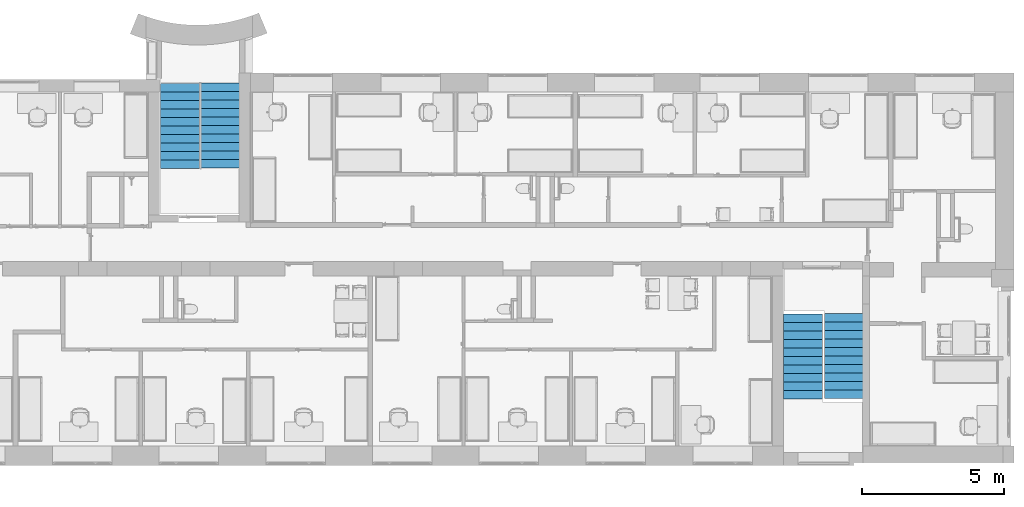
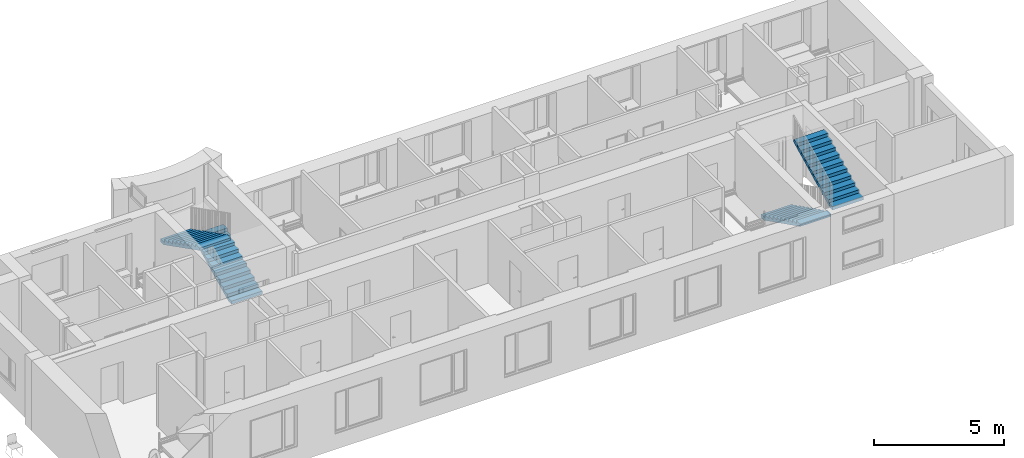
# One storey, part 17 of 48: 4 stair flights, 4 elements without a shape of their own.
"""IFC2X3 building model written with IfcOpenShell, lengths in millimetres."""

from ifc_helpers import new_model, entity, si_unit, converted_unit, derived_unit, direction, frame, origin, place, context, subcontext, project, spatial, faceted_brep, material, type_object, element, aggregate, save


model = new_model("IFC2X3")

# Units and contexts
model_context = context("Model", 3, precision=0.01, world=origin(), true_north=direction((6.12303176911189e-17, 1.0)))
body_context = subcontext(model_context, "Body", "Model", "MODEL_VIEW")
ifc_project = project(units=[si_unit("LENGTHUNIT", "METRE", prefix="MILLI"), si_unit("AREAUNIT", "SQUARE_METRE"), si_unit("VOLUMEUNIT", "CUBIC_METRE"), converted_unit("PLANEANGLEUNIT", "DEGREE", entity("IfcRatioMeasure", 0.0174532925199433), si_unit("PLANEANGLEUNIT", "RADIAN"), dimensions=[0, 0, 0, 0, 0, 0, 0]), si_unit("MASSUNIT", "GRAM", prefix="KILO"), derived_unit("MASSDENSITYUNIT", [(si_unit("MASSUNIT", "GRAM", prefix="KILO"), 1), (si_unit("LENGTHUNIT", "METRE"), -3)]), si_unit("TIMEUNIT", "SECOND"), si_unit("FREQUENCYUNIT", "HERTZ"), si_unit("THERMODYNAMICTEMPERATUREUNIT", "DEGREE_CELSIUS"), derived_unit("THERMALTRANSMITTANCEUNIT", [(si_unit("MASSUNIT", "GRAM", prefix="KILO"), 1), (si_unit("THERMODYNAMICTEMPERATUREUNIT", "KELVIN"), -1), (si_unit("TIMEUNIT", "SECOND"), -3)]), derived_unit("VOLUMETRICFLOWRATEUNIT", [(si_unit("LENGTHUNIT", "METRE"), 3), (si_unit("TIMEUNIT", "SECOND"), -1)]), si_unit("ELECTRICCURRENTUNIT", "AMPERE"), si_unit("ELECTRICVOLTAGEUNIT", "VOLT"), si_unit("POWERUNIT", "WATT"), si_unit("FORCEUNIT", "NEWTON", prefix="KILO"), si_unit("ILLUMINANCEUNIT", "LUX"), si_unit("LUMINOUSFLUXUNIT", "LUMEN"), si_unit("LUMINOUSINTENSITYUNIT", "CANDELA"), derived_unit("USERDEFINED", [(si_unit("MASSUNIT", "GRAM", prefix="KILO"), -1), (si_unit("LENGTHUNIT", "METRE"), -2), (si_unit("TIMEUNIT", "SECOND"), 3), (si_unit("LUMINOUSFLUXUNIT", "LUMEN"), 1)]), derived_unit("LINEARVELOCITYUNIT", [(si_unit("LENGTHUNIT", "METRE"), 1), (si_unit("TIMEUNIT", "SECOND"), -1)]), si_unit("PRESSUREUNIT", "PASCAL"), derived_unit("USERDEFINED", [(si_unit("LENGTHUNIT", "METRE"), -2), (si_unit("MASSUNIT", "GRAM", prefix="KILO"), 1), (si_unit("TIMEUNIT", "SECOND"), -2)]), derived_unit("LINEARFORCEUNIT", [(si_unit("MASSUNIT", "GRAM", prefix="KILO"), 1), (si_unit("LENGTHUNIT", "METRE"), 1), (si_unit("TIMEUNIT", "SECOND"), -2), (si_unit("LENGTHUNIT", "METRE"), -1)]), derived_unit("PLANARFORCEUNIT", [(si_unit("MASSUNIT", "GRAM", prefix="KILO"), 1), (si_unit("LENGTHUNIT", "METRE"), 1), (si_unit("TIMEUNIT", "SECOND"), -2), (si_unit("LENGTHUNIT", "METRE"), -2)])], contexts=[model_context])

# Site, building, storey
site_placement = place(None, origin())
site = spatial("IfcSite", under=ifc_project, at=site_placement, Name="Default", CompositionType="ELEMENT")
building_placement = place(site_placement, origin())
building = spatial("IfcBuilding", under=site, at=building_placement, Name="SMA ARH", CompositionType="ELEMENT")
storey_placement = place(building_placement, frame((0.0, 0.0, 6600.0)))
storey = spatial("IfcBuildingStorey", under=building, at=storey_placement, Name="3 Korrus", CompositionType="ELEMENT", Elevation=6599.99999999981)

# Stair, stair flight
stair_1_placement = place(storey_placement, origin())
stair_1 = element("IfcStair", 1, at=stair_1_placement, inside=storey, Name="Cast-In-Place Stair:Stair", ObjectType="Cast-In-Place Stair:Cast-In-Place Stair", ShapeType="STRAIGHT_RUN_STAIR")
ifc_material = material(Name="EST. Betoon. Armeeritud. Monteeritav(1)")
stair_flight_type_1 = type_object("IfcStairFlightType", Name="Monolithic Run:Monolithic Run", PredefinedType="STRAIGHT")
stair_flight_1_placement = place(stair_1_placement, frame((10255.0, 9812.01033621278, 0.0)))
stair_flight_1 = element("IfcStairFlight", 2, at=stair_flight_1_placement, type_object=stair_flight_type_1, material=ifc_material, Name="Cast-In-Place Stair:Stair:912932 Run 1", ObjectType="Monolithic Run:Monolithic Run", NumberOfRiser=11, NumberOfTreads=10, RiserHeight=0.483178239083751, TreadLength=0.984251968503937, context=body_context, shape_type="Brep", body=[
    faceted_brep([(0.0, 300.0, 87.2727272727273), (0.0, 0.0, 87.2727272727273), (1375.0, 0.0, 87.2727272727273), (1375.0, 300.0, 87.2727272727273), (0.0, 300.0, -24.127081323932), (0.0, 226.925536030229, -60.0), (0.0, 0.0, -60.0), (1375.0, 0.0, -60.0), (1375.0, 226.925536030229, -60.0), (1375.0, 300.0, -24.1270813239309), (0.0, 600.0, 234.545454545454), (0.0, 300.0, 234.545454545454), (1375.0, 300.0, 234.545454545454), (1375.0, 600.0, 234.545454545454), (0.0, 600.0, 123.145645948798), (1375.0, 600.0, 123.145645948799), (0.0, 900.0, 381.818181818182), (0.0, 600.0, 381.818181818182), (1375.0, 600.0, 381.818181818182), (1375.0, 900.0, 381.818181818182), (0.0, 900.0, 270.418373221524), (1375.0, 900.0, 270.418373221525), (0.0, 1200.0, 529.090909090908), (0.0, 900.0, 529.090909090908), (1375.0, 900.0, 529.090909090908), (1375.0, 1200.0, 529.090909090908), (0.0, 1200.0, 417.691100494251), (1375.0, 1200.0, 417.691100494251), (0.0, 1500.0, 676.363636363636), (0.0, 1200.0, 676.363636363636), (1375.0, 1200.0, 676.363636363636), (1375.0, 1500.0, 676.363636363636), (0.0, 1500.0, 564.963827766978), (1375.0, 1500.0, 564.963827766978), (0.0, 1800.0, 823.636363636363), (0.0, 1500.0, 823.636363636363), (1375.0, 1500.0, 823.636363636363), (1375.0, 1800.0, 823.636363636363), (0.0, 1800.0, 712.236555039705), (1375.0, 1800.0, 712.236555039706), (0.0, 2100.0, 970.909090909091), (0.0, 1800.0, 970.909090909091), (1375.0, 1800.0, 970.909090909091), (1375.0, 2100.0, 970.909090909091), (0.0, 2100.0, 859.509282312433), (1375.0, 2100.0, 859.509282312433), (0.0, 2400.0, 1118.18181818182), (0.0, 2100.0, 1118.18181818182), (1375.0, 2100.0, 1118.18181818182), (1375.0, 2400.0, 1118.18181818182), (0.0, 2400.0, 1006.78200958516), (1375.0, 2400.0, 1006.78200958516), (0.0, 2700.0, 1265.45454545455), (0.0, 2400.0, 1265.45454545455), (1375.0, 2400.0, 1265.45454545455), (1375.0, 2700.0, 1265.45454545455), (0.0, 2700.0, 1154.05473685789), (1375.0, 2700.0, 1154.05473685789), (0.0, 3000.0, 1301.32746413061), (1375.0, 3000.0, 1301.32746413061), (0.0, 3000.0, 1412.72727272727), (0.0, 2700.0, 1412.72727272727), (1375.0, 2700.0, 1412.72727272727), (1375.0, 3000.0, 1412.72727272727), (0.0, 3000.0, 1360.0)], [[[0, 1, 2, 3]], [[1, 0, 4, 5, 6]], [[2, 1, 6, 7]], [[3, 2, 7, 8, 9]], [[10, 11, 12, 13]], [[11, 10, 14, 4, 0]], [[0, 3, 12, 11]], [[13, 12, 3, 9, 15]], [[16, 17, 18, 19]], [[17, 16, 20, 14, 10]], [[10, 13, 18, 17]], [[19, 18, 13, 15, 21]], [[22, 23, 24, 25]], [[23, 22, 26, 20, 16]], [[16, 19, 24, 23]], [[25, 24, 19, 21, 27]], [[28, 29, 30, 31]], [[29, 28, 32, 26, 22]], [[22, 25, 30, 29]], [[31, 30, 25, 27, 33]], [[34, 35, 36, 37]], [[35, 34, 38, 32, 28]], [[28, 31, 36, 35]], [[37, 36, 31, 33, 39]], [[40, 41, 42, 43]], [[41, 40, 44, 38, 34]], [[34, 37, 42, 41]], [[43, 42, 37, 39, 45]], [[46, 47, 48, 49]], [[47, 46, 50, 44, 40]], [[40, 43, 48, 47]], [[49, 48, 43, 45, 51]], [[52, 53, 54, 55]], [[53, 52, 56, 50, 46]], [[46, 49, 54, 53]], [[55, 54, 49, 51, 57]], [[7, 6, 5, 8]], [[8, 5, 4, 14, 20, 26, 32, 38, 44, 50, 56, 58, 59, 57, 51, 45, 39, 33, 27, 21, 15, 9]], [[60, 61, 62, 63]], [[61, 60, 64, 58, 56, 52]], [[52, 55, 62, 61]], [[63, 62, 55, 57, 59]], [[60, 63, 59, 58, 64]]]),
])
aggregate(stair_1, [stair_flight_1])

stair_2_placement = place(storey_placement, origin())
stair_2 = element("IfcStair", 3, at=stair_2_placement, inside=storey, Name="Cast-In-Place Stair:Stair", ObjectType="Cast-In-Place Stair:Cast-In-Place Stair", ShapeType="STRAIGHT_RUN_STAIR")
stair_flight_type_2 = type_object("IfcStairFlightType", Name="Monolithic Run:Monolithic Run", PredefinedType="STRAIGHT")
stair_flight_2_placement = place(stair_2_placement, frame((30835.0, 1655.0, 0.0)))
stair_flight_2 = element("IfcStairFlight", 4, at=stair_flight_2_placement, type_object=stair_flight_type_2, material=ifc_material, Name="Cast-In-Place Stair:Stair:1045978 Run 1", ObjectType="Monolithic Run:Monolithic Run", NumberOfRiser=11, NumberOfTreads=10, RiserHeight=0.492125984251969, TreadLength=0.984251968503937, context=body_context, shape_type="Brep", body=[
    faceted_brep([(1375.0, 2700.0, 100.0), (1375.0, 3000.0, 100.0), (0.0, 3000.0, 100.0), (0.0, 2700.0, 100.0), (1375.0, 2700.0, -11.8033988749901), (1375.0, 2776.39320225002, -50.0), (1375.0, 3000.0, -50.0), (0.0, 3000.0, -50.0), (0.0, 2776.39320225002, -50.0), (0.0, 2700.0, -11.8033988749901), (1375.0, 2400.0, 250.0), (1375.0, 2700.0, 250.0), (0.0, 2700.0, 250.0), (0.0, 2400.0, 250.0), (1375.0, 2400.0, 138.196601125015), (0.0, 2400.0, 138.196601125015), (1375.0, 2100.0, 400.0), (1375.0, 2400.0, 400.0), (0.0, 2400.0, 400.0), (0.0, 2100.0, 400.0), (1375.0, 2100.0, 288.196601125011), (0.0, 2100.0, 288.196601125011), (1375.0, 1800.0, 550.0), (1375.0, 2100.0, 550.0), (0.0, 2100.0, 550.0), (0.0, 1800.0, 550.0), (1375.0, 1800.0, 438.196601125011), (0.0, 1800.0, 438.196601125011), (1375.0, 1500.0, 700.0), (1375.0, 1800.0, 700.0), (0.0, 1800.0, 700.0), (0.0, 1500.0, 700.0), (1375.0, 1500.0, 588.196601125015), (0.0, 1500.0, 588.196601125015), (1375.0, 1200.0, 850.0), (1375.0, 1500.0, 850.0), (0.0, 1500.0, 850.0), (0.0, 1200.0, 850.0), (1375.0, 1200.0, 738.19660112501), (0.0, 1200.0, 738.19660112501), (1375.0, 900.0, 1000.0), (1375.0, 1200.0, 1000.0), (0.0, 1200.0, 1000.0), (0.0, 900.0, 1000.0), (1375.0, 900.0, 888.196601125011), (0.0, 900.0, 888.196601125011), (1375.0, 600.0, 1150.0), (1375.0, 900.0, 1150.0), (0.0, 900.0, 1150.0), (0.0, 600.0, 1150.0), (1375.0, 600.0, 1038.19660112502), (0.0, 600.0, 1038.19660112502), (1375.0, 300.0, 1300.0), (1375.0, 600.0, 1300.0), (0.0, 600.0, 1300.0), (0.0, 300.0, 1300.0), (1375.0, 300.0, 1188.19660112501), (0.0, 300.0, 1188.19660112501), (1375.0, 0.0, 1338.19660112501), (0.0, 0.0, 1338.19660112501), (1375.0, 0.0, 1450.0), (1375.0, 300.0, 1450.0), (0.0, 300.0, 1450.0), (0.0, 0.0, 1450.0)], [[[0, 1, 2, 3]], [[1, 0, 4, 5, 6]], [[2, 1, 6, 7]], [[3, 2, 7, 8, 9]], [[10, 11, 12, 13]], [[11, 10, 14, 4, 0]], [[0, 3, 12, 11]], [[13, 12, 3, 9, 15]], [[16, 17, 18, 19]], [[17, 16, 20, 14, 10]], [[10, 13, 18, 17]], [[19, 18, 13, 15, 21]], [[22, 23, 24, 25]], [[23, 22, 26, 20, 16]], [[16, 19, 24, 23]], [[25, 24, 19, 21, 27]], [[28, 29, 30, 31]], [[29, 28, 32, 26, 22]], [[22, 25, 30, 29]], [[31, 30, 25, 27, 33]], [[34, 35, 36, 37]], [[35, 34, 38, 32, 28]], [[28, 31, 36, 35]], [[37, 36, 31, 33, 39]], [[40, 41, 42, 43]], [[41, 40, 44, 38, 34]], [[34, 37, 42, 41]], [[43, 42, 37, 39, 45]], [[46, 47, 48, 49]], [[47, 46, 50, 44, 40]], [[40, 43, 48, 47]], [[49, 48, 43, 45, 51]], [[52, 53, 54, 55]], [[53, 52, 56, 50, 46]], [[46, 49, 54, 53]], [[55, 54, 49, 51, 57]], [[7, 6, 5, 8]], [[8, 5, 4, 14, 20, 26, 32, 38, 44, 50, 56, 58, 59, 57, 51, 45, 39, 33, 27, 21, 15, 9]], [[60, 61, 62, 63]], [[61, 60, 58, 56, 52]], [[52, 55, 62, 61]], [[63, 62, 55, 57, 59]], [[60, 63, 59, 58]]]),
])
aggregate(stair_2, [stair_flight_2])

stair_3_placement = place(storey_placement, origin())
stair_3 = element("IfcStair", 5, at=stair_3_placement, inside=storey, Name="Cast-In-Place Stair:Stair", ObjectType="Cast-In-Place Stair:Cast-In-Place Stair", ShapeType="STRAIGHT_RUN_STAIR")
stair_flight_type_3 = type_object("IfcStairFlightType", Name="Monolithic Run:Monolithic Run", PredefinedType="NOTDEFINED")
stair_flight_3_placement = place(stair_3_placement, frame((32280.0, 1670.0, 0.0)))
stair_flight_3 = element("IfcStairFlight", 6, at=stair_flight_3_placement, type_object=stair_flight_type_3, material=ifc_material, Name="Cast-In-Place Stair:Stair:1055920 Run 1", ObjectType="Monolithic Run:Monolithic Run", NumberOfRiser=11, NumberOfTreads=10, RiserHeight=0.492125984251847, TreadLength=0.984251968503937, context=body_context, shape_type="Brep", body=[
    faceted_brep([(0.0, 300.0, 1750.0), (0.0, 0.0, 1750.0), (1375.0, 0.0, 1750.0), (1375.0, 300.0, 1750.0), (0.0, 300.0, 1638.19660112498), (0.0, 223.606797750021, 1600.0), (0.0, 0.0, 1600.0), (1375.0, 0.0, 1600.0), (1375.0, 223.606797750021, 1600.0), (1375.0, 300.0, 1638.19660112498), (0.0, 600.0, 1900.0), (0.0, 300.0, 1900.0), (1375.0, 300.0, 1900.0), (1375.0, 600.0, 1900.0), (0.0, 600.0, 1788.19660112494), (1375.0, 600.0, 1788.19660112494), (0.0, 900.0, 2050.0), (0.0, 600.0, 2050.0), (1375.0, 600.0, 2050.0), (1375.0, 900.0, 2050.0), (0.0, 900.0, 1938.1966011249), (1375.0, 900.0, 1938.1966011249), (0.0, 1200.0, 2200.0), (0.0, 900.0, 2200.0), (1375.0, 900.0, 2200.0), (1375.0, 1200.0, 2200.0), (0.0, 1200.0, 2088.19660112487), (1375.0, 1200.0, 2088.19660112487), (0.0, 1500.0, 2350.0), (0.0, 1200.0, 2350.0), (1375.0, 1200.0, 2350.0), (1375.0, 1500.0, 2350.0), (0.0, 1500.0, 2238.19660112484), (1375.0, 1500.0, 2238.19660112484), (0.0, 1800.0, 2500.0), (0.0, 1500.0, 2500.0), (1375.0, 1500.0, 2500.0), (1375.0, 1800.0, 2500.0), (0.0, 1800.0, 2388.1966011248), (1375.0, 1800.0, 2388.1966011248), (0.0, 2100.0, 2650.0), (0.0, 1800.0, 2650.0), (1375.0, 1800.0, 2650.0), (1375.0, 2100.0, 2650.0), (0.0, 2100.0, 2538.19660112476), (1375.0, 2100.0, 2538.19660112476), (0.0, 2400.0, 2800.0), (0.0, 2100.0, 2800.0), (1375.0, 2100.0, 2800.0), (1375.0, 2400.0, 2800.0), (0.0, 2400.0, 2688.19660112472), (1375.0, 2400.0, 2688.19660112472), (0.0, 2700.0, 2950.0), (0.0, 2400.0, 2950.0), (1375.0, 2400.0, 2950.0), (1375.0, 2700.0, 2950.0), (0.0, 2700.0, 2838.19660112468), (1375.0, 2700.0, 2838.19660112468), (0.0, 3000.0, 2988.19660112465), (1375.0, 3000.0, 2988.19660112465), (0.0, 3000.0, 3100.0), (0.0, 2700.0, 3100.0), (1375.0, 2700.0, 3100.0), (1375.0, 3000.0, 3100.0)], [[[0, 1, 2, 3]], [[1, 0, 4, 5, 6]], [[2, 1, 6, 7]], [[3, 2, 7, 8, 9]], [[10, 11, 12, 13]], [[11, 10, 14, 4, 0]], [[0, 3, 12, 11]], [[13, 12, 3, 9, 15]], [[16, 17, 18, 19]], [[17, 16, 20, 14, 10]], [[10, 13, 18, 17]], [[19, 18, 13, 15, 21]], [[22, 23, 24, 25]], [[23, 22, 26, 20, 16]], [[16, 19, 24, 23]], [[25, 24, 19, 21, 27]], [[28, 29, 30, 31]], [[29, 28, 32, 26, 22]], [[22, 25, 30, 29]], [[31, 30, 25, 27, 33]], [[34, 35, 36, 37]], [[35, 34, 38, 32, 28]], [[28, 31, 36, 35]], [[37, 36, 31, 33, 39]], [[40, 41, 42, 43]], [[41, 40, 44, 38, 34]], [[34, 37, 42, 41]], [[43, 42, 37, 39, 45]], [[46, 47, 48, 49]], [[47, 46, 50, 44, 40]], [[40, 43, 48, 47]], [[49, 48, 43, 45, 51]], [[52, 53, 54, 55]], [[53, 52, 56, 50, 46]], [[46, 49, 54, 53]], [[55, 54, 49, 51, 57]], [[7, 6, 5, 8]], [[8, 5, 4, 14, 20, 26, 32, 38, 44, 50, 56, 58, 59, 57, 51, 45, 39, 33, 27, 21, 15, 9]], [[60, 61, 62, 63]], [[61, 60, 58, 56, 52]], [[52, 55, 62, 61]], [[63, 62, 55, 57, 59]], [[60, 63, 59, 58]]]),
])
aggregate(stair_3, [stair_flight_3])

stair_4_placement = place(storey_placement, origin())
stair_4 = element("IfcStair", 7, at=stair_4_placement, inside=storey, Name="Cast-In-Place Stair:Stair", ObjectType="Cast-In-Place Stair:Cast-In-Place Stair", ShapeType="STRAIGHT_RUN_STAIR")
stair_flight_type_4 = type_object("IfcStairFlightType", Name="Monolithic Run:Monolithic Run", PredefinedType="NOTDEFINED")
stair_flight_4_placement = place(stair_4_placement, frame((8830.0, 9802.80572404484, 0.0)))
stair_flight_4 = element("IfcStairFlight", 8, at=stair_flight_4_placement, type_object=stair_flight_type_4, material=ifc_material, Name="Cast-In-Place Stair:Stair:1077825 Run 1", ObjectType="Monolithic Run:Monolithic Run", NumberOfRiser=11, NumberOfTreads=10, RiserHeight=0.501073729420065, TreadLength=0.984251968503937, context=body_context, shape_type="Brep", body=[
    faceted_brep([(1375.0, 2700.0, 1712.72727272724), (1375.0, 3000.0, 1712.72727272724), (0.0, 3000.0, 1712.72727272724), (0.0, 2700.0, 1712.72727272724), (1375.0, 2700.0, 1600.51437000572), (1375.0, 2779.58179822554, 1560.0), (1375.0, 3000.0, 1560.0), (0.0, 3000.0, 1560.0), (0.0, 2779.58179822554, 1560.0), (0.0, 2700.0, 1600.51437000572), (1375.0, 2400.0, 1865.45454545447), (1375.0, 2700.0, 1865.45454545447), (0.0, 2700.0, 1865.45454545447), (0.0, 2400.0, 1865.45454545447), (1375.0, 2400.0, 1753.24164273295), (0.0, 2400.0, 1753.24164273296), (1375.0, 2100.0, 2018.18181818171), (1375.0, 2400.0, 2018.18181818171), (0.0, 2400.0, 2018.18181818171), (0.0, 2100.0, 2018.18181818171), (1375.0, 2100.0, 1905.96891546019), (0.0, 2100.0, 1905.96891546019), (1375.0, 1800.0, 2170.90909090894), (1375.0, 2100.0, 2170.90909090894), (0.0, 2100.0, 2170.90909090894), (0.0, 1800.0, 2170.90909090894), (1375.0, 1800.0, 2058.69618818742), (0.0, 1800.0, 2058.69618818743), (1375.0, 1500.0, 2323.63636363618), (1375.0, 1800.0, 2323.63636363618), (0.0, 1800.0, 2323.63636363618), (0.0, 1500.0, 2323.63636363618), (1375.0, 1500.0, 2211.42346091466), (0.0, 1500.0, 2211.42346091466), (1375.0, 1200.0, 2476.36363636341), (1375.0, 1500.0, 2476.36363636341), (0.0, 1500.0, 2476.36363636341), (0.0, 1200.0, 2476.36363636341), (1375.0, 1200.0, 2364.1507336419), (0.0, 1200.0, 2364.1507336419), (1375.0, 900.0, 2629.09090909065), (1375.0, 1200.0, 2629.09090909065), (0.0, 1200.0, 2629.09090909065), (0.0, 900.0, 2629.09090909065), (1375.0, 900.0, 2516.87800636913), (0.0, 900.0, 2516.87800636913), (1375.0, 600.0, 2781.81818181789), (1375.0, 900.0, 2781.81818181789), (0.0, 900.0, 2781.81818181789), (0.0, 600.0, 2781.81818181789), (1375.0, 600.0, 2669.60527909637), (0.0, 600.0, 2669.60527909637), (1375.0, 300.0, 2934.54545454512), (1375.0, 600.0, 2934.54545454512), (0.0, 600.0, 2934.54545454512), (0.0, 300.0, 2934.54545454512), (1375.0, 300.0, 2822.3325518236), (0.0, 300.0, 2822.3325518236), (1375.0, 0.0, 2975.05982455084), (0.0, 0.0, 2975.05982455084), (1375.0, 0.0, 3087.27272727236), (1375.0, 300.0, 3087.27272727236), (0.0, 300.0, 3087.27272727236), (0.0, 0.0, 3087.27272727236), (1375.0, 0.0, 3040.0)], [[[0, 1, 2, 3]], [[1, 0, 4, 5, 6]], [[2, 1, 6, 7]], [[3, 2, 7, 8, 9]], [[10, 11, 12, 13]], [[11, 10, 14, 4, 0]], [[0, 3, 12, 11]], [[13, 12, 3, 9, 15]], [[16, 17, 18, 19]], [[17, 16, 20, 14, 10]], [[10, 13, 18, 17]], [[19, 18, 13, 15, 21]], [[22, 23, 24, 25]], [[23, 22, 26, 20, 16]], [[16, 19, 24, 23]], [[25, 24, 19, 21, 27]], [[28, 29, 30, 31]], [[29, 28, 32, 26, 22]], [[22, 25, 30, 29]], [[31, 30, 25, 27, 33]], [[34, 35, 36, 37]], [[35, 34, 38, 32, 28]], [[28, 31, 36, 35]], [[37, 36, 31, 33, 39]], [[40, 41, 42, 43]], [[41, 40, 44, 38, 34]], [[34, 37, 42, 41]], [[43, 42, 37, 39, 45]], [[46, 47, 48, 49]], [[47, 46, 50, 44, 40]], [[40, 43, 48, 47]], [[49, 48, 43, 45, 51]], [[52, 53, 54, 55]], [[53, 52, 56, 50, 46]], [[46, 49, 54, 53]], [[55, 54, 49, 51, 57]], [[7, 6, 5, 8]], [[8, 5, 4, 14, 20, 26, 32, 38, 44, 50, 56, 58, 59, 57, 51, 45, 39, 33, 27, 21, 15, 9]], [[60, 61, 62, 63]], [[61, 60, 64, 58, 56, 52]], [[52, 55, 62, 61]], [[63, 62, 55, 57, 59]], [[60, 63, 59, 58, 64]]]),
])
aggregate(stair_4, [stair_flight_4])

save(model, "model.ifc")
